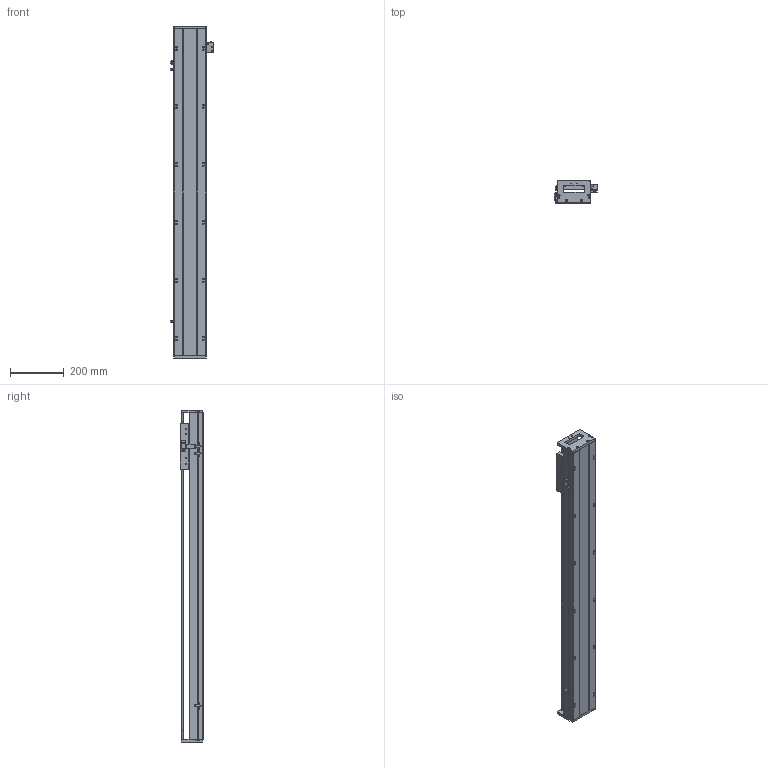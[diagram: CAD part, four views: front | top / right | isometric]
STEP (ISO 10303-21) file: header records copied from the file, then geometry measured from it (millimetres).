
FILE_DESCRIPTION (( 'STEP AP203' ), '1' );
FILE_NAME ('SKR12S-C1-S966（简）.STEP', '2022-09-26T02:47:10', ( '' ), ( '' ), 'SwSTEP 2.0', 'SolidWorks 2018', '' );
FILE_SCHEMA (( 'CONFIG_CONTROL_DESIGN' ));
Length unit declared in the file: millimetre
Products named in the file (8): SKR12耜啣; SKR12菁釱-C1-S966(潠); SIKO棠掑; 棠掑假蚾輸; EE-SX672; SKR12S-C1-S966（简）; 覜茼え; SKR12滑台-170L（简）
Assembly tree (10 placements, depth 2):
  SKR12S-C1-S966（简）
    SKR12菁釱-C1-S966(潠)
    SKR12滑台-170L（简）
    SKR12耜啣  x2
    棠掑假蚾輸
    SIKO棠掑
    覜茼え
    EE-SX672  x3
Bounding box: 162.7 x 87.3 x 1236 mm (x, y, z)
Volume: 5525131.6 mm3; surface area: 894753.6 mm2
Topology: 11 solids, 11 shells, 986 faces, 2621 edges, 1657 vertices
Faces by surface type: cylinder 451, plane 401, cone 134
Entity records: 26813 total; most frequent: CARTESIAN_POINT 5359, DIRECTION 4439, ORIENTED_EDGE 4206, EDGE_CURVE 2103, AXIS2_PLACEMENT_3D 1641, VERTEX_POINT 1361, VECTOR 1157, LINE 1157
